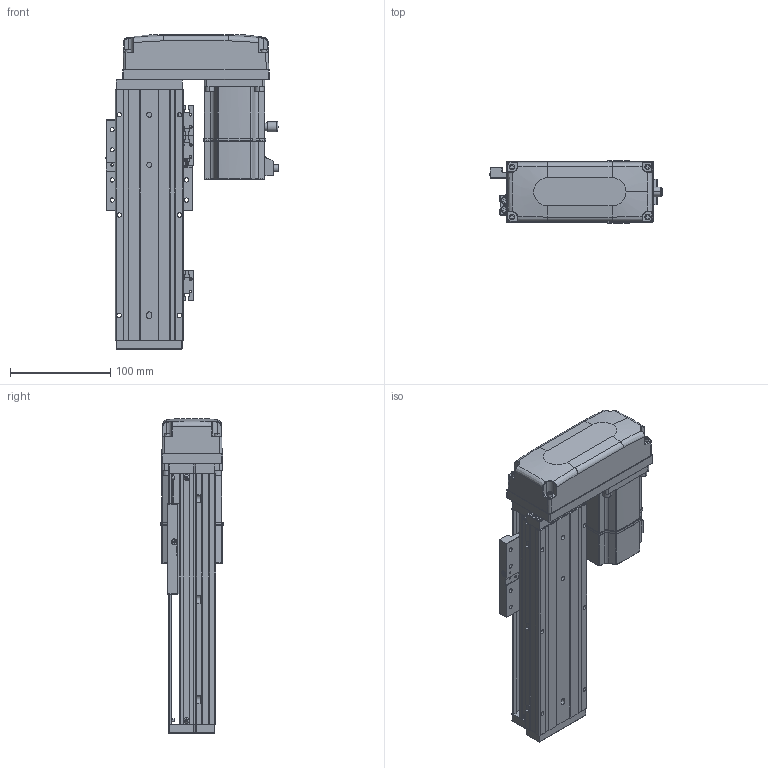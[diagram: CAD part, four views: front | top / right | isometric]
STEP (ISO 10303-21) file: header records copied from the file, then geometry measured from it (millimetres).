
FILE_DESCRIPTION (( 'STEP AP203' ), '1' );
FILE_NAME ('KTHAL60-100-BL-M20-C4L.step', '2022-12-16T02:05:20', ( '微软用户' ), ( '微软中国' ), 'SwSTEP 2.0', 'SolidWorks 2020', '' );
FILE_SCHEMA (( 'CONFIG_CONTROL_DESIGN' ));
Length unit declared in the file: millimetre
Products named in the file (17): GTH80-026; KTHA60-004; GBT 70.1-M4×16; KTHAL60-100-BL-M20-C4L; KTHA60-005; GBT77-2000M3-3; GB¨uT 70.2-M3¡Á5_M3¡Á6; GBT 70.1-M3℅6; GBT 70.3-M3℅6; CTHA60-016; EE_SX911P_R; _X2_4E0983F1_X0_200W_1; KTHA60-001_250; CTHA60-017; CTHA60-015-4_CTHA60-015-4; KTHLA60-002; CTHA60-021
Assembly tree (45 placements, depth 2):
  KTHAL60-100-BL-M20-C4L
    KTHA60-001_250
    KTHLA60-002
    KTHA60-004
    KTHA60-005
    GB¨uT 70.2-M3¡Á5_M3¡Á6  x5
    GBT 70.3-M3℅6  x4
    EE_SX911P_R  x3
    CTHA60-017  x3
    CTHA60-021  x2
    GBT 70.1-M4×16  x8
    GBT77-2000M3-3  x6
    GBT 70.1-M3℅6  x6
    CTHA60-016
    _X2_4E0983F1_X0_200W_1
    CTHA60-015-4_CTHA60-015-4
    GTH80-026
Bounding box: 172.2 x 62.42 x 314 mm (x, y, z)
Volume: 1268392.6 mm3; surface area: 248328.5 mm2
Topology: 48 solids, 48 shells, 2271 faces, 5380 edges, 3301 vertices
Faces by surface type: plane 1211, cylinder 599, cone 262, bspline 103, torus 82, sphere 14
Entity records: 43309 total; most frequent: CARTESIAN_POINT 9818, DIRECTION 6481, ORIENTED_EDGE 6384, EDGE_CURVE 3192, AXIS2_PLACEMENT_3D 2248, VECTOR 1985, VERTEX_POINT 1985, LINE 1985
